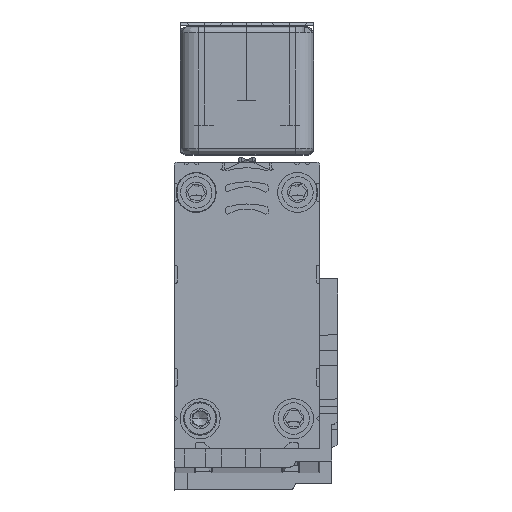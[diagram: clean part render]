
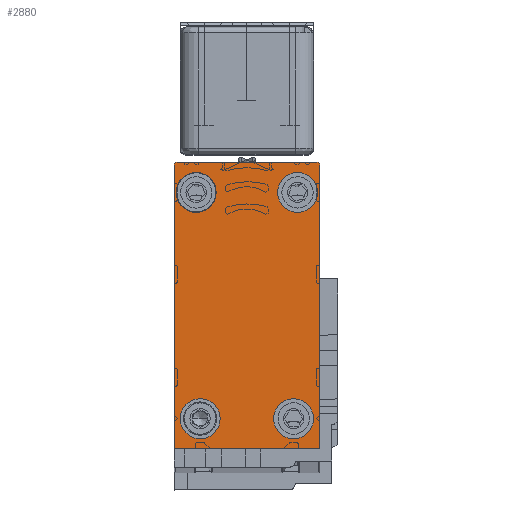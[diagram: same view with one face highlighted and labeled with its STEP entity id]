
A CAD part, top view. The second image highlights one B-rep face of the part: STEP entity #2880.
In plain terms, the highlighted planar face has unit normal (0, 0, 1).
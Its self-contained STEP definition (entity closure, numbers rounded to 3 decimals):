
#332 = ORIENTED_EDGE ( 'NONE', *, *, #3534, .T. ) ;
#354 = DIRECTION ( 'NONE',  ( 0., 1., 0. ) ) ;
#674 = ORIENTED_EDGE ( 'NONE', *, *, #18154, .T. ) ;
#818 = VERTEX_POINT ( 'NONE', #1046 ) ;
#848 = CARTESIAN_POINT ( 'NONE',  ( -13.714, -15.887, 3185. ) ) ;
#1043 = CARTESIAN_POINT ( 'NONE',  ( 5.984, 25.871, 3185. ) ) ;
#1046 = CARTESIAN_POINT ( 'NONE',  ( 4.978, -15.887, 3185. ) ) ;
#1198 = CARTESIAN_POINT ( 'NONE',  ( 5.984, 7.11, 3185. ) ) ;
#1290 = AXIS2_PLACEMENT_3D ( 'NONE', #17045, #4380, #19095 ) ;
#1651 = ORIENTED_EDGE ( 'NONE', *, *, #11691, .T. ) ;
#1729 = EDGE_CURVE ( 'NONE', #23336, #15304, #5984, .T. ) ;
#1876 = FACE_BOUND ( 'NONE', #24688, .T. ) ;
#2795 = VERTEX_POINT ( 'NONE', #24670 ) ;
#2880 = ADVANCED_FACE ( 'NONE', ( #23420, #18662, #1876, #18034, #12497 ), #24226, .T. ) ;
#2916 = CARTESIAN_POINT ( 'NONE',  ( 1.676, -15.887, 3185. ) ) ;
#2966 = DIRECTION ( 'NONE',  ( -1., 0., 0. ) ) ;
#3222 = CARTESIAN_POINT ( 'NONE',  ( -14.365, 21.401, 3185. ) ) ;
#3379 = CARTESIAN_POINT ( 'NONE',  ( 2.335, 21.401, 3185. ) ) ;
#3442 = LINE ( 'NONE', #12240, #24939 ) ;
#3534 = EDGE_CURVE ( 'NONE', #23544, #818, #19560, .T. ) ;
#3812 = DIRECTION ( 'NONE',  ( 1., 0., 0. ) ) ;
#3837 = CARTESIAN_POINT ( 'NONE',  ( -13.714, -15.887, 3185. ) ) ;
#4281 = DIRECTION ( 'NONE',  ( 0., 0., -1. ) ) ;
#4380 = DIRECTION ( 'NONE',  ( 0., 0., 1. ) ) ;
#4692 = EDGE_CURVE ( 'NONE', #13088, #9293, #3442, .T. ) ;
#5112 = EDGE_LOOP ( 'NONE', ( #674, #24923 ) ) ;
#5331 = DIRECTION ( 'NONE',  ( -1., 0., 0. ) ) ;
#5496 = DIRECTION ( 'NONE',  ( -1., 0., 0. ) ) ;
#5952 = DIRECTION ( 'NONE',  ( -1., 0., 0. ) ) ;
#5984 = LINE ( 'NONE', #8584, #11347 ) ;
#6006 = CARTESIAN_POINT ( 'NONE',  ( 5.984, -20.888, 3185. ) ) ;
#6220 = VERTEX_POINT ( 'NONE', #17221 ) ;
#6367 = DIRECTION ( 'NONE',  ( 0., 0., -1. ) ) ;
#6514 = VECTOR ( 'NONE', #354, 1000. ) ;
#7153 = DIRECTION ( 'NONE',  ( 0., 0., -1. ) ) ;
#7312 = AXIS2_PLACEMENT_3D ( 'NONE', #3379, #18106, #5496 ) ;
#7482 = VERTEX_POINT ( 'NONE', #17819 ) ;
#7902 = CIRCLE ( 'NONE', #18604, 3.302 ) ;
#8189 = CIRCLE ( 'NONE', #1290, 0.5 ) ;
#8310 = EDGE_CURVE ( 'NONE', #17334, #2795, #11875, .T. ) ;
#8584 = CARTESIAN_POINT ( 'NONE',  ( 5.485, 26.371, 3185. ) ) ;
#8682 = CARTESIAN_POINT ( 'NONE',  ( 5.485, 26.371, 3185. ) ) ;
#9293 = VERTEX_POINT ( 'NONE', #6006 ) ;
#9470 = CIRCLE ( 'NONE', #21186, 3.302 ) ;
#9747 = EDGE_CURVE ( 'NONE', #26562, #26570, #10086, .T. ) ;
#9790 = EDGE_LOOP ( 'NONE', ( #13331, #24627 ) ) ;
#9923 = LINE ( 'NONE', #22635, #15527 ) ;
#10048 = ORIENTED_EDGE ( 'NONE', *, *, #20171, .F. ) ;
#10086 = CIRCLE ( 'NONE', #19541, 3.302 ) ;
#10285 = CIRCLE ( 'NONE', #23223, 3.302 ) ;
#11347 = VECTOR ( 'NONE', #12847, 1000. ) ;
#11418 = ORIENTED_EDGE ( 'NONE', *, *, #20886, .T. ) ;
#11465 = DIRECTION ( 'NONE',  ( 0., 0., -1. ) ) ;
#11691 = EDGE_CURVE ( 'NONE', #24999, #23336, #8189, .T. ) ;
#11875 = CIRCLE ( 'NONE', #16220, 3.302 ) ;
#11888 = CARTESIAN_POINT ( 'NONE',  ( -18.014, -20.888, 3185. ) ) ;
#12054 = EDGE_CURVE ( 'NONE', #26804, #6220, #14122, .T. ) ;
#12216 = CARTESIAN_POINT ( 'NONE',  ( -18.014, -20.888, 3185. ) ) ;
#12240 = CARTESIAN_POINT ( 'NONE',  ( -18.014, -20.888, 3185. ) ) ;
#12245 = DIRECTION ( 'NONE',  ( 0., 1., 0. ) ) ;
#12497 = FACE_OUTER_BOUND ( 'NONE', #24604, .T. ) ;
#12542 = DIRECTION ( 'NONE',  ( 0., 0., -1. ) ) ;
#12847 = DIRECTION ( 'NONE',  ( -1., 0., 0. ) ) ;
#13048 = ORIENTED_EDGE ( 'NONE', *, *, #12054, .T. ) ;
#13088 = VERTEX_POINT ( 'NONE', #12216 ) ;
#13331 = ORIENTED_EDGE ( 'NONE', *, *, #9747, .T. ) ;
#14012 = DIRECTION ( 'NONE',  ( -1., 0., 0. ) ) ;
#14122 = CIRCLE ( 'NONE', #7312, 3.302 ) ;
#14286 = AXIS2_PLACEMENT_3D ( 'NONE', #16946, #4281, #18998 ) ;
#14328 = CARTESIAN_POINT ( 'NONE',  ( 5.637, 21.401, 3185. ) ) ;
#14416 = ORIENTED_EDGE ( 'NONE', *, *, #21724, .T. ) ;
#14520 = EDGE_CURVE ( 'NONE', #25816, #24999, #24519, .T. ) ;
#15304 = VERTEX_POINT ( 'NONE', #24295 ) ;
#15321 = CIRCLE ( 'NONE', #14286, 3.302 ) ;
#15527 = VECTOR ( 'NONE', #24619, 1000. ) ;
#15609 = DIRECTION ( 'NONE',  ( 0., 0., -1. ) ) ;
#16062 = EDGE_CURVE ( 'NONE', #7482, #13088, #9923, .T. ) ;
#16220 = AXIS2_PLACEMENT_3D ( 'NONE', #848, #15609, #2966 ) ;
#16907 = ORIENTED_EDGE ( 'NONE', *, *, #16062, .T. ) ;
#16946 = CARTESIAN_POINT ( 'NONE',  ( 2.335, 21.401, 3185. ) ) ;
#17045 = CARTESIAN_POINT ( 'NONE',  ( 5.485, 25.871, 3185. ) ) ;
#17221 = CARTESIAN_POINT ( 'NONE',  ( -0.967, 21.401, 3185. ) ) ;
#17334 = VERTEX_POINT ( 'NONE', #22164 ) ;
#17819 = CARTESIAN_POINT ( 'NONE',  ( -18.014, 25.871, 3185. ) ) ;
#17863 = CARTESIAN_POINT ( 'NONE',  ( -1.626, -15.887, 3185. ) ) ;
#17954 = DIRECTION ( 'NONE',  ( 0., 0., -1. ) ) ;
#18034 = FACE_BOUND ( 'NONE', #5112, .T. ) ;
#18106 = DIRECTION ( 'NONE',  ( 0., 0., -1. ) ) ;
#18154 = EDGE_CURVE ( 'NONE', #2795, #17334, #7902, .T. ) ;
#18541 = DIRECTION ( 'NONE',  ( 0., 0., -1. ) ) ;
#18604 = AXIS2_PLACEMENT_3D ( 'NONE', #3837, #18541, #5952 ) ;
#18662 = FACE_BOUND ( 'NONE', #19268, .T. ) ;
#18998 = DIRECTION ( 'NONE',  ( -1., 0., 0. ) ) ;
#19024 = DIRECTION ( 'NONE',  ( -1., 0., 0. ) ) ;
#19095 = DIRECTION ( 'NONE',  ( 0., 1., 0. ) ) ;
#19106 = VECTOR ( 'NONE', #12245, 1000. ) ;
#19268 = EDGE_LOOP ( 'NONE', ( #14416, #13048 ) ) ;
#19541 = AXIS2_PLACEMENT_3D ( 'NONE', #3222, #17954, #5331 ) ;
#19560 = CIRCLE ( 'NONE', #21920, 3.302 ) ;
#19701 = CARTESIAN_POINT ( 'NONE',  ( 1.676, -15.887, 3185. ) ) ;
#20171 = EDGE_CURVE ( 'NONE', #7482, #15304, #25645, .T. ) ;
#20604 = ORIENTED_EDGE ( 'NONE', *, *, #25486, .T. ) ;
#20723 = AXIS2_PLACEMENT_3D ( 'NONE', #11888, #26269, #14012 ) ;
#20886 = EDGE_CURVE ( 'NONE', #818, #23544, #9470, .T. ) ;
#21186 = AXIS2_PLACEMENT_3D ( 'NONE', #19701, #7153, #21719 ) ;
#21719 = DIRECTION ( 'NONE',  ( -1., 0., 0. ) ) ;
#21724 = EDGE_CURVE ( 'NONE', #6220, #26804, #15321, .T. ) ;
#21920 = AXIS2_PLACEMENT_3D ( 'NONE', #2916, #6367, #19024 ) ;
#22164 = CARTESIAN_POINT ( 'NONE',  ( -10.412, -15.887, 3185. ) ) ;
#22436 = CARTESIAN_POINT ( 'NONE',  ( 5.984, 7.11, 3185. ) ) ;
#22635 = CARTESIAN_POINT ( 'NONE',  ( -18.014, 25.871, 3185. ) ) ;
#22689 = ORIENTED_EDGE ( 'NONE', *, *, #4692, .T. ) ;
#22716 = AXIS2_PLACEMENT_3D ( 'NONE', #23812, #11465, #25862 ) ;
#23108 = LINE ( 'NONE', #25354, #6514 ) ;
#23223 = AXIS2_PLACEMENT_3D ( 'NONE', #24850, #12542, #26883 ) ;
#23336 = VERTEX_POINT ( 'NONE', #8682 ) ;
#23420 = FACE_BOUND ( 'NONE', #9790, .T. ) ;
#23544 = VERTEX_POINT ( 'NONE', #17863 ) ;
#23812 = CARTESIAN_POINT ( 'NONE',  ( -17.514, 25.871, 3185. ) ) ;
#23911 = CARTESIAN_POINT ( 'NONE',  ( -11.063, 21.401, 3185. ) ) ;
#23933 = ORIENTED_EDGE ( 'NONE', *, *, #14520, .T. ) ;
#24226 = PLANE ( 'NONE',  #20723 ) ;
#24295 = CARTESIAN_POINT ( 'NONE',  ( -17.514, 26.371, 3185. ) ) ;
#24472 = EDGE_CURVE ( 'NONE', #26570, #26562, #10285, .T. ) ;
#24519 = LINE ( 'NONE', #22436, #19106 ) ;
#24604 = EDGE_LOOP ( 'NONE', ( #20604, #23933, #1651, #25612, #10048, #16907, #22689 ) ) ;
#24619 = DIRECTION ( 'NONE',  ( 0., -1., 0. ) ) ;
#24627 = ORIENTED_EDGE ( 'NONE', *, *, #24472, .T. ) ;
#24670 = CARTESIAN_POINT ( 'NONE',  ( -17.017, -15.887, 3185. ) ) ;
#24688 = EDGE_LOOP ( 'NONE', ( #332, #11418 ) ) ;
#24850 = CARTESIAN_POINT ( 'NONE',  ( -14.365, 21.401, 3185. ) ) ;
#24923 = ORIENTED_EDGE ( 'NONE', *, *, #8310, .T. ) ;
#24939 = VECTOR ( 'NONE', #3812, 1000. ) ;
#24999 = VERTEX_POINT ( 'NONE', #1043 ) ;
#25354 = CARTESIAN_POINT ( 'NONE',  ( 5.984, -20.888, 3185. ) ) ;
#25486 = EDGE_CURVE ( 'NONE', #9293, #25816, #23108, .T. ) ;
#25612 = ORIENTED_EDGE ( 'NONE', *, *, #1729, .T. ) ;
#25645 = CIRCLE ( 'NONE', #22716, 0.5 ) ;
#25796 = CARTESIAN_POINT ( 'NONE',  ( -17.667, 21.401, 3185. ) ) ;
#25816 = VERTEX_POINT ( 'NONE', #1198 ) ;
#25862 = DIRECTION ( 'NONE',  ( 0., 1., 0. ) ) ;
#26269 = DIRECTION ( 'NONE',  ( 0., 0., 1. ) ) ;
#26562 = VERTEX_POINT ( 'NONE', #25796 ) ;
#26570 = VERTEX_POINT ( 'NONE', #23911 ) ;
#26804 = VERTEX_POINT ( 'NONE', #14328 ) ;
#26883 = DIRECTION ( 'NONE',  ( -1., 0., 0. ) ) ;
